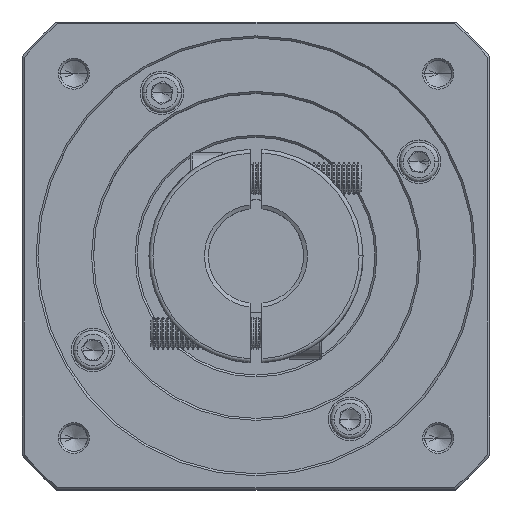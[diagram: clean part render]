
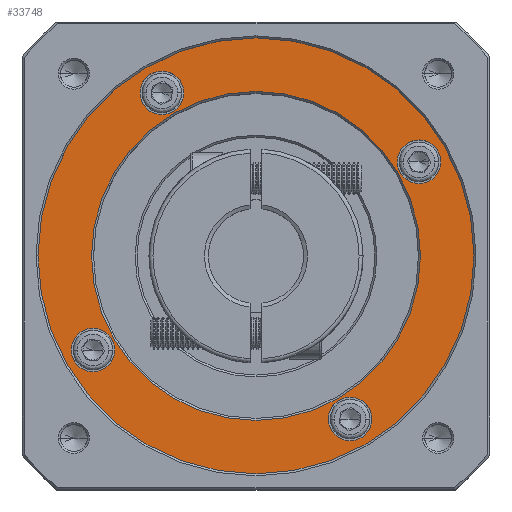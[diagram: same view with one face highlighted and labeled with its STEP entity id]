
A CAD part, top view. The second image highlights one B-rep face of the part: STEP entity #33748.
In plain terms, the highlighted planar face has unit normal (0, 0, 1).
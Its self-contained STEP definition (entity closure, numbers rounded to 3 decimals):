
#199 = VERTEX_POINT ( 'NONE', #66122 ) ;
#1729 = CARTESIAN_POINT ( 'NONE',  ( -12.249, 145.346, 73.53 ) ) ;
#2398 = CARTESIAN_POINT ( 'NONE',  ( 42.751, 145.346, 73.53 ) ) ;
#3966 = CIRCLE ( 'NONE', #74272, 5.5 ) ;
#5481 = AXIS2_PLACEMENT_3D ( 'NONE', #76564, #22755, #85557 ) ;
#7033 = VERTEX_POINT ( 'NONE', #46830 ) ;
#7088 = CARTESIAN_POINT ( 'NONE',  ( 42.751, 145.346, 73.53 ) ) ;
#7620 = EDGE_CURVE ( 'NONE', #93840, #25977, #66661, .T. ) ;
#8009 = DIRECTION ( 'NONE',  ( 0., 0., -1. ) ) ;
#8691 = DIRECTION ( 'NONE',  ( 0., 0., -1. ) ) ;
#9051 = AXIS2_PLACEMENT_3D ( 'NONE', #96362, #42661, #105375 ) ;
#9171 = FACE_BOUND ( 'NONE', #99092, .T. ) ;
#10549 = EDGE_CURVE ( 'NONE', #25977, #93840, #3966, .T. ) ;
#11438 = DIRECTION ( 'NONE',  ( 1., 0., 0. ) ) ;
#11713 = CARTESIAN_POINT ( 'NONE',  ( 61.001, 104.21, 73.53 ) ) ;
#12413 = EDGE_CURVE ( 'NONE', #52540, #108158, #27139, .T. ) ;
#15376 = EDGE_CURVE ( 'NONE', #7033, #81175, #56808, .T. ) ;
#16070 = DIRECTION ( 'NONE',  ( 0., -1., 0. ) ) ;
#16076 = CARTESIAN_POINT ( 'NONE',  ( 19.001, 186.482, 73.53 ) ) ;
#17059 = CIRCLE ( 'NONE', #9051, 55. ) ;
#21197 = VERTEX_POINT ( 'NONE', #1729 ) ;
#22755 = DIRECTION ( 'NONE',  ( 0., 0., 1. ) ) ;
#23840 = CARTESIAN_POINT ( 'NONE',  ( 89.387, 169.096, 73.53 ) ) ;
#24482 = ORIENTED_EDGE ( 'NONE', *, *, #85822, .T. ) ;
#25082 = DIRECTION ( 'NONE',  ( 1., 0., 0. ) ) ;
#25977 = VERTEX_POINT ( 'NONE', #98160 ) ;
#26158 = EDGE_CURVE ( 'NONE', #44883, #106657, #98534, .T. ) ;
#26295 = CIRCLE ( 'NONE', #37507, 41.5 ) ;
#26967 = ORIENTED_EDGE ( 'NONE', *, *, #95572, .T. ) ;
#27139 = CIRCLE ( 'NONE', #114253, 5.5 ) ;
#30797 = EDGE_CURVE ( 'NONE', #21197, #103918, #102449, .T. ) ;
#31333 = CARTESIAN_POINT ( 'NONE',  ( 42.751, 103.846, 73.53 ) ) ;
#31638 = DIRECTION ( 'NONE',  ( 0., 0., -1. ) ) ;
#32735 = VERTEX_POINT ( 'NONE', #99975 ) ;
#33024 = FACE_BOUND ( 'NONE', #67793, .T. ) ;
#33648 = CARTESIAN_POINT ( 'NONE',  ( 97.751, 145.346, 73.53 ) ) ;
#33748 = ADVANCED_FACE ( 'NONE', ( #57000, #104616, #33024, #9171, #59811, #101813 ), #73828, .T. ) ;
#35141 = AXIS2_PLACEMENT_3D ( 'NONE', #61797, #8009, #70759 ) ;
#35269 = DIRECTION ( 'NONE',  ( 0., 0., -1. ) ) ;
#37507 = AXIS2_PLACEMENT_3D ( 'NONE', #7088, #69874, #16070 ) ;
#38662 = CARTESIAN_POINT ( 'NONE',  ( 1.615, 121.596, 73.53 ) ) ;
#41776 = ORIENTED_EDGE ( 'NONE', *, *, #30797, .T. ) ;
#42259 = CARTESIAN_POINT ( 'NONE',  ( -3.885, 121.596, 73.53 ) ) ;
#42661 = DIRECTION ( 'NONE',  ( 0., 0., 1. ) ) ;
#44418 = AXIS2_PLACEMENT_3D ( 'NONE', #101651, #47952, #110664 ) ;
#44883 = VERTEX_POINT ( 'NONE', #103244 ) ;
#45045 = EDGE_CURVE ( 'NONE', #199, #32735, #74414, .T. ) ;
#46830 = CARTESIAN_POINT ( 'NONE',  ( 7.115, 121.596, 73.53 ) ) ;
#47727 = DIRECTION ( 'NONE',  ( 1., 0., 0. ) ) ;
#47952 = DIRECTION ( 'NONE',  ( 0., 0., -1. ) ) ;
#49771 = CARTESIAN_POINT ( 'NONE',  ( 66.501, 104.21, 73.53 ) ) ;
#50794 = ORIENTED_EDGE ( 'NONE', *, *, #75368, .T. ) ;
#50915 = DIRECTION ( 'NONE',  ( 0., 0., -1. ) ) ;
#52540 = VERTEX_POINT ( 'NONE', #106522 ) ;
#56808 = CIRCLE ( 'NONE', #65908, 5.5 ) ;
#57000 = FACE_OUTER_BOUND ( 'NONE', #80899, .T. ) ;
#57098 = ORIENTED_EDGE ( 'NONE', *, *, #7620, .T. ) ;
#58382 = EDGE_CURVE ( 'NONE', #81175, #7033, #101679, .T. ) ;
#58857 = DIRECTION ( 'NONE',  ( 1., 0., 0. ) ) ;
#59370 = EDGE_LOOP ( 'NONE', ( #24482, #97883 ) ) ;
#59811 = FACE_BOUND ( 'NONE', #67023, .T. ) ;
#61797 = CARTESIAN_POINT ( 'NONE',  ( 19.001, 186.482, 73.53 ) ) ;
#62504 = CARTESIAN_POINT ( 'NONE',  ( 83.887, 169.096, 73.53 ) ) ;
#65237 = DIRECTION ( 'NONE',  ( 0., 0., 1. ) ) ;
#65908 = AXIS2_PLACEMENT_3D ( 'NONE', #88989, #35269, #98005 ) ;
#66122 = CARTESIAN_POINT ( 'NONE',  ( 13.501, 186.482, 73.53 ) ) ;
#66661 = CIRCLE ( 'NONE', #103971, 5.5 ) ;
#67023 = EDGE_LOOP ( 'NONE', ( #50794, #78286 ) ) ;
#67793 = EDGE_LOOP ( 'NONE', ( #26967, #115483 ) ) ;
#69874 = DIRECTION ( 'NONE',  ( 0., 0., -1. ) ) ;
#70759 = DIRECTION ( 'NONE',  ( 1., 0., 0. ) ) ;
#71151 = ORIENTED_EDGE ( 'NONE', *, *, #105214, .T. ) ;
#71473 = DIRECTION ( 'NONE',  ( 1., 0., 0. ) ) ;
#73828 = PLANE ( 'NONE',  #87800 ) ;
#74272 = AXIS2_PLACEMENT_3D ( 'NONE', #85379, #31638, #94374 ) ;
#74414 = CIRCLE ( 'NONE', #113227, 5.5 ) ;
#75368 = EDGE_CURVE ( 'NONE', #32735, #199, #81133, .T. ) ;
#76272 = AXIS2_PLACEMENT_3D ( 'NONE', #104578, #50915, #113571 ) ;
#76564 = CARTESIAN_POINT ( 'NONE',  ( 42.751, 145.346, 73.53 ) ) ;
#78286 = ORIENTED_EDGE ( 'NONE', *, *, #45045, .T. ) ;
#78904 = DIRECTION ( 'NONE',  ( 0., 0., -1. ) ) ;
#80899 = EDGE_LOOP ( 'NONE', ( #71151, #41776 ) ) ;
#81133 = CIRCLE ( 'NONE', #35141, 5.5 ) ;
#81175 = VERTEX_POINT ( 'NONE', #42259 ) ;
#82065 = ORIENTED_EDGE ( 'NONE', *, *, #10549, .T. ) ;
#84961 = ORIENTED_EDGE ( 'NONE', *, *, #15376, .T. ) ;
#85379 = CARTESIAN_POINT ( 'NONE',  ( 66.501, 104.21, 73.53 ) ) ;
#85557 = DIRECTION ( 'NONE',  ( 1., 0., 0. ) ) ;
#85822 = EDGE_CURVE ( 'NONE', #106657, #44883, #26295, .T. ) ;
#86986 = CIRCLE ( 'NONE', #76272, 5.5 ) ;
#87800 = AXIS2_PLACEMENT_3D ( 'NONE', #2398, #65237, #11438 ) ;
#88989 = CARTESIAN_POINT ( 'NONE',  ( 1.615, 121.596, 73.53 ) ) ;
#93840 = VERTEX_POINT ( 'NONE', #11713 ) ;
#94374 = DIRECTION ( 'NONE',  ( 1., 0., 0. ) ) ;
#94749 = ORIENTED_EDGE ( 'NONE', *, *, #58382, .T. ) ;
#95572 = EDGE_CURVE ( 'NONE', #108158, #52540, #86986, .T. ) ;
#96362 = CARTESIAN_POINT ( 'NONE',  ( 42.751, 145.346, 73.53 ) ) ;
#97883 = ORIENTED_EDGE ( 'NONE', *, *, #26158, .T. ) ;
#98005 = DIRECTION ( 'NONE',  ( 1., 0., 0. ) ) ;
#98160 = CARTESIAN_POINT ( 'NONE',  ( 72.001, 104.21, 73.53 ) ) ;
#98283 = EDGE_LOOP ( 'NONE', ( #84961, #94749 ) ) ;
#98534 = CIRCLE ( 'NONE', #44418, 41.5 ) ;
#99092 = EDGE_LOOP ( 'NONE', ( #82065, #57098 ) ) ;
#99975 = CARTESIAN_POINT ( 'NONE',  ( 24.501, 186.482, 73.53 ) ) ;
#101419 = DIRECTION ( 'NONE',  ( 0., 0., -1. ) ) ;
#101651 = CARTESIAN_POINT ( 'NONE',  ( 42.751, 145.346, 73.53 ) ) ;
#101679 = CIRCLE ( 'NONE', #102818, 5.5 ) ;
#101813 = FACE_BOUND ( 'NONE', #98283, .T. ) ;
#102449 = CIRCLE ( 'NONE', #5481, 55. ) ;
#102818 = AXIS2_PLACEMENT_3D ( 'NONE', #38662, #101419, #47727 ) ;
#103244 = CARTESIAN_POINT ( 'NONE',  ( 42.751, 186.846, 73.53 ) ) ;
#103918 = VERTEX_POINT ( 'NONE', #33648 ) ;
#103971 = AXIS2_PLACEMENT_3D ( 'NONE', #49771, #112463, #58857 ) ;
#104578 = CARTESIAN_POINT ( 'NONE',  ( 83.887, 169.096, 73.53 ) ) ;
#104616 = FACE_BOUND ( 'NONE', #59370, .T. ) ;
#105214 = EDGE_CURVE ( 'NONE', #103918, #21197, #17059, .T. ) ;
#105375 = DIRECTION ( 'NONE',  ( 1., 0., 0. ) ) ;
#106522 = CARTESIAN_POINT ( 'NONE',  ( 78.387, 169.096, 73.53 ) ) ;
#106657 = VERTEX_POINT ( 'NONE', #31333 ) ;
#108158 = VERTEX_POINT ( 'NONE', #23840 ) ;
#110664 = DIRECTION ( 'NONE',  ( 0., -1., 0. ) ) ;
#112463 = DIRECTION ( 'NONE',  ( 0., 0., -1. ) ) ;
#113227 = AXIS2_PLACEMENT_3D ( 'NONE', #16076, #78904, #25082 ) ;
#113571 = DIRECTION ( 'NONE',  ( 1., 0., 0. ) ) ;
#114253 = AXIS2_PLACEMENT_3D ( 'NONE', #62504, #8691, #71473 ) ;
#115483 = ORIENTED_EDGE ( 'NONE', *, *, #12413, .T. ) ;
